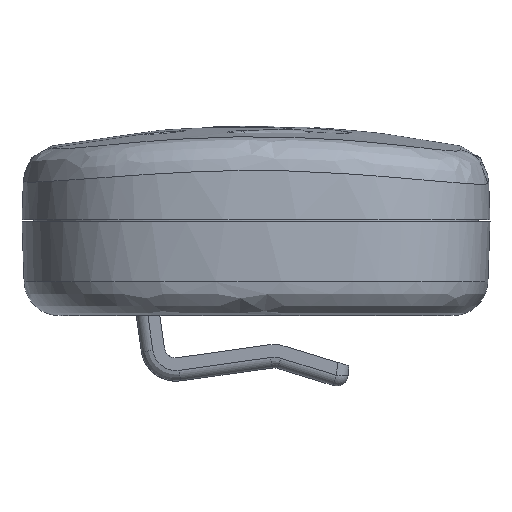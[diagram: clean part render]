
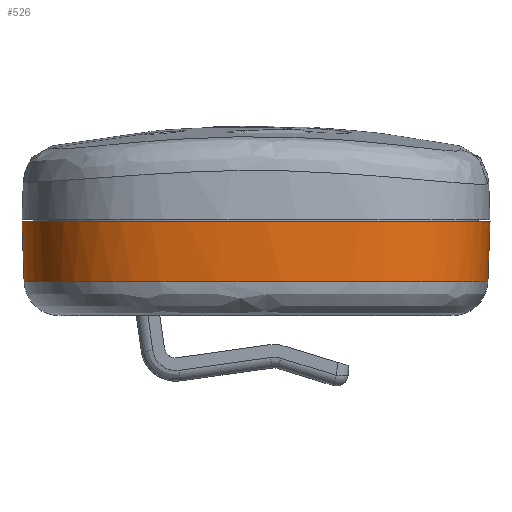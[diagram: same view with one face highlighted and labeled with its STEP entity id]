
A CAD part, front view. The second image highlights one B-rep face of the part: STEP entity #526.
In plain terms, the highlighted free-form (B-spline) face has degree [3, 1] with [19, 2] control points.
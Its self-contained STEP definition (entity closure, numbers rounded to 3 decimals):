
#238=B_SPLINE_SURFACE_WITH_KNOTS('',3,1,((#5361,#5362),(#5363,#5364),(#5365,
#5366),(#5367,#5368),(#5369,#5370),(#5371,#5372),(#5373,#5374),(#5375,#5376),
(#5377,#5378),(#5379,#5380),(#5381,#5382),(#5383,#5384),(#5385,#5386),(#5387,
#5388),(#5389,#5390),(#5391,#5392),(#5393,#5394),(#5395,#5396),(#5397,#5398)),
 .UNSPECIFIED.,.F.,.F.,.F.,(4,1,1,1,1,1,1,1,1,1,1,1,1,1,1,1,4),(2,2),(0.,
0.051,0.101,0.2,0.322,
0.355,0.418,0.491,0.569,
0.633,0.698,0.787,0.846,
0.923,0.952,0.976,1.),(0.,1.),
 .UNSPECIFIED.);
#390=(
BOUNDED_CURVE()
B_SPLINE_CURVE(3,(#5281,#5282,#5283,#5284,#5285,#5286,#5287,#5288,#5289,
#5290,#5291,#5292,#5293,#5294,#5295,#5296,#5297,#5298,#5299),
 .UNSPECIFIED.,.F.,.F.)
B_SPLINE_CURVE_WITH_KNOTS((4,1,1,1,1,1,1,1,1,1,1,1,1,1,1,1,4),(0.,0.058,
0.11,0.144,0.187,0.265,
0.315,0.388,0.433,0.561,
0.642,0.696,0.735,0.806,
0.873,0.948,1.),.UNSPECIFIED.)
CURVE()
GEOMETRIC_REPRESENTATION_ITEM()
RATIONAL_B_SPLINE_CURVE((1.,1.,1.,1.,1.,1.,1.,1.,1.,1.,1.,1.,1.,1.,1.,1.,
1.,1.,1.))
REPRESENTATION_ITEM('')
);
#526=ADVANCED_FACE('',(#699),#238,.T.);
#699=FACE_OUTER_BOUND('',#854,.T.);
#854=EDGE_LOOP('',(#1482,#1483,#1484,#1485));
#995=B_SPLINE_CURVE_WITH_KNOTS('',3,(#5171,#5172,#5173,#5174,#5175,#5176,
#5177,#5178,#5179,#5180,#5181,#5182,#5183,#5184,#5185,#5186,#5187,#5188,
#5189),.UNSPECIFIED.,.F.,.F.,(4,1,1,1,1,1,1,1,1,1,1,1,1,1,1,1,4),(0.,0.024,
0.048,0.077,0.154,0.213,
0.302,0.367,0.431,0.509,
0.582,0.645,0.678,0.8,
0.899,0.949,1.),.UNSPECIFIED.);
#1482=ORIENTED_EDGE('',*,*,#2221,.T.);
#1483=ORIENTED_EDGE('',*,*,#2232,.F.);
#1484=ORIENTED_EDGE('',*,*,#2230,.F.);
#1485=ORIENTED_EDGE('',*,*,#2233,.T.);
#1934=VERTEX_POINT('',#5170);
#1935=VERTEX_POINT('',#5190);
#1937=VERTEX_POINT('',#5196);
#1939=VERTEX_POINT('',#5278);
#2221=EDGE_CURVE('',#1935,#1934,#995,.T.);
#2230=EDGE_CURVE('',#1937,#1939,#390,.T.);
#2232=EDGE_CURVE('',#1939,#1934,#2508,.T.);
#2233=EDGE_CURVE('',#1937,#1935,#2509,.T.);
#2508=LINE('',#5358,#2623);
#2509=LINE('',#5360,#2624);
#2623=VECTOR('',#3021,1.);
#2624=VECTOR('',#3024,1.);
#3021=DIRECTION('',(0.035,0.,-0.999));
#3024=DIRECTION('',(-0.035,0.,-0.999));
#5170=CARTESIAN_POINT('',(20.,-12.,-8.));
#5171=CARTESIAN_POINT('',(-20.,-16.,-8.));
#5172=CARTESIAN_POINT('',(-20.,-16.458,-8.));
#5173=CARTESIAN_POINT('',(-19.978,-17.4,-8.));
#5174=CARTESIAN_POINT('',(-19.86,-18.819,-8.));
#5175=CARTESIAN_POINT('',(-19.479,-21.107,-8.));
#5176=CARTESIAN_POINT('',(-18.469,-23.658,-8.));
#5177=CARTESIAN_POINT('',(-15.874,-26.522,-8.));
#5178=CARTESIAN_POINT('',(-12.415,-28.495,-8.));
#5179=CARTESIAN_POINT('',(-8.193,-29.5,-8.));
#5180=CARTESIAN_POINT('',(-3.751,-29.92,-8.));
#5181=CARTESIAN_POINT('',(1.316,-30.098,-8.));
#5182=CARTESIAN_POINT('',(6.443,-29.615,-8.));
#5183=CARTESIAN_POINT('',(10.199,-28.587,-8.));
#5184=CARTESIAN_POINT('',(14.342,-26.597,-8.));
#5185=CARTESIAN_POINT('',(17.564,-23.008,-8.));
#5186=CARTESIAN_POINT('',(19.296,-18.222,-8.));
#5187=CARTESIAN_POINT('',(19.904,-14.603,-8.));
#5188=CARTESIAN_POINT('',(20.,-12.885,-8.));
#5189=CARTESIAN_POINT('',(20.,-12.,-8.));
#5190=CARTESIAN_POINT('',(-20.,-16.,-8.));
#5196=CARTESIAN_POINT('',(-19.822,-16.,-2.895));
#5278=CARTESIAN_POINT('',(19.822,-12.,-2.895));
#5281=CARTESIAN_POINT('',(-19.822,-16.,-2.895));
#5282=CARTESIAN_POINT('',(-19.822,-17.091,-2.895));
#5283=CARTESIAN_POINT('',(-19.72,-19.198,-2.895));
#5284=CARTESIAN_POINT('',(-18.976,-22.091,-2.895));
#5285=CARTESIAN_POINT('',(-17.523,-24.53,-2.895));
#5286=CARTESIAN_POINT('',(-15.174,-26.784,-2.895));
#5287=CARTESIAN_POINT('',(-12.09,-28.36,-2.895));
#5288=CARTESIAN_POINT('',(-8.281,-29.298,-2.895));
#5289=CARTESIAN_POINT('',(-5.189,-29.612,-2.895));
#5290=CARTESIAN_POINT('',(-0.758,-29.879,-2.895));
#5291=CARTESIAN_POINT('',(3.948,-29.822,-2.895));
#5292=CARTESIAN_POINT('',(8.834,-28.864,-2.895));
#5293=CARTESIAN_POINT('',(12.036,-27.602,-2.895));
#5294=CARTESIAN_POINT('',(14.857,-25.697,-2.895));
#5295=CARTESIAN_POINT('',(17.182,-22.899,-2.895));
#5296=CARTESIAN_POINT('',(18.862,-19.06,-2.895));
#5297=CARTESIAN_POINT('',(19.66,-15.421,-2.895));
#5298=CARTESIAN_POINT('',(19.823,-12.991,-2.895));
#5299=CARTESIAN_POINT('',(19.822,-12.,-2.895));
#5358=CARTESIAN_POINT('',(19.911,-12.,-5.448));
#5360=CARTESIAN_POINT('',(-19.911,-16.,-5.448));
#5361=CARTESIAN_POINT('',(19.08,-12.,18.342));
#5362=CARTESIAN_POINT('',(20.64,-12.,-26.337));
#5363=CARTESIAN_POINT('',(19.08,-12.851,18.342));
#5364=CARTESIAN_POINT('',(20.64,-12.909,-26.337));
#5365=CARTESIAN_POINT('',(18.988,-14.501,18.342));
#5366=CARTESIAN_POINT('',(20.542,-14.674,-26.337));
#5367=CARTESIAN_POINT('',(18.403,-17.981,18.342));
#5368=CARTESIAN_POINT('',(19.917,-18.39,-26.337));
#5369=CARTESIAN_POINT('',(16.744,-22.546,18.342));
#5370=CARTESIAN_POINT('',(18.134,-23.33,-26.337));
#5371=CARTESIAN_POINT('',(13.762,-25.85,18.342));
#5372=CARTESIAN_POINT('',(14.746,-27.116,-26.337));
#5373=CARTESIAN_POINT('',(9.9,-27.711,18.342));
#5374=CARTESIAN_POINT('',(10.407,-29.197,-26.337));
#5375=CARTESIAN_POINT('',(6.287,-28.705,18.342));
#5376=CARTESIAN_POINT('',(6.551,-30.249,-26.337));
#5377=CARTESIAN_POINT('',(1.3,-29.175,18.342));
#5378=CARTESIAN_POINT('',(1.327,-30.74,-26.337));
#5379=CARTESIAN_POINT('',(-3.691,-29.002,18.342));
#5380=CARTESIAN_POINT('',(-3.793,-30.559,-26.337));
#5381=CARTESIAN_POINT('',(-8.065,-28.587,18.342));
#5382=CARTESIAN_POINT('',(-8.281,-30.136,-26.337));
#5383=CARTESIAN_POINT('',(-12.08,-27.624,18.342));
#5384=CARTESIAN_POINT('',(-12.648,-29.1,-26.337));
#5385=CARTESIAN_POINT('',(-15.308,-25.776,18.342));
#5386=CARTESIAN_POINT('',(-16.267,-27.042,-26.337));
#5387=CARTESIAN_POINT('',(-17.673,-23.158,18.342));
#5388=CARTESIAN_POINT('',(-19.023,-24.006,-26.337));
#5389=CARTESIAN_POINT('',(-18.584,-20.863,18.342));
#5390=CARTESIAN_POINT('',(-20.102,-21.278,-26.337));
#5391=CARTESIAN_POINT('',(-18.946,-18.708,18.342));
#5392=CARTESIAN_POINT('',(-20.496,-18.896,-26.337));
#5393=CARTESIAN_POINT('',(-19.059,-17.354,18.342));
#5394=CARTESIAN_POINT('',(-20.618,-17.432,-26.337));
#5395=CARTESIAN_POINT('',(-19.08,-16.442,18.342));
#5396=CARTESIAN_POINT('',(-20.64,-16.469,-26.337));
#5397=CARTESIAN_POINT('',(-19.08,-16.,18.342));
#5398=CARTESIAN_POINT('',(-20.64,-16.,-26.337));
